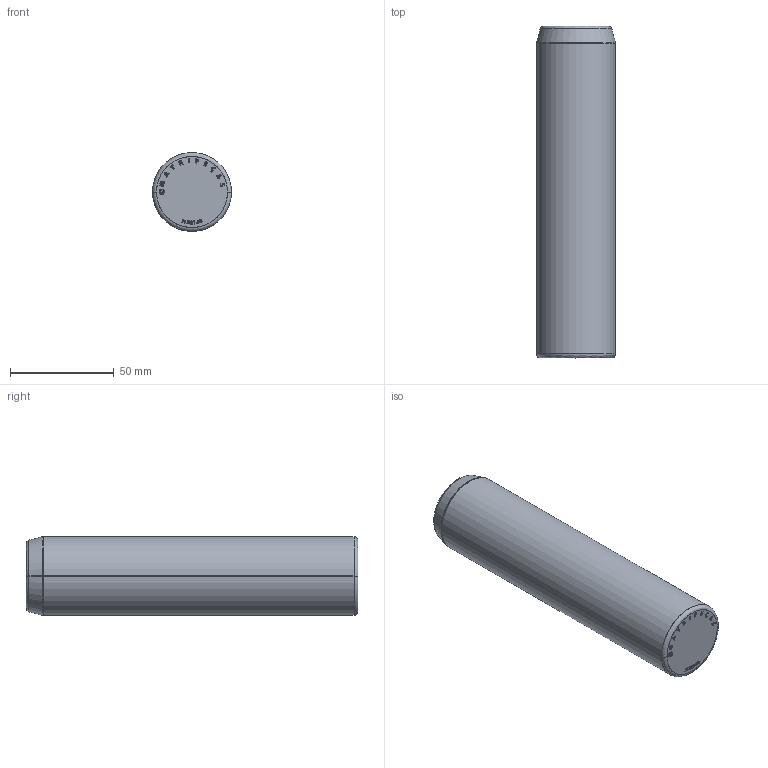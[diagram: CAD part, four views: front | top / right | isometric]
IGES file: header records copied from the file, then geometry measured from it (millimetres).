
Start section: SolidWorks IGES file using analytic representation for surfaces
Global section: file name: D:\Cleonir_arquivos\MT_15_07\Pinos Lisos\PL38160.igs; native system: SolidWorks 2013; preprocessor: SolidWorks 2013; author: Cleonir; date: 130731.134510; units: millimetre
Bounding box: 38 x 160 x 38 mm (x, y, z)
Surface area: 21706.2 mm2 (no closed solid volume)
Topology: 0 solids, 0 shells, 281 faces, 3650 edges, 3648 vertices
Faces by surface type: bspline 260, revolution 21
